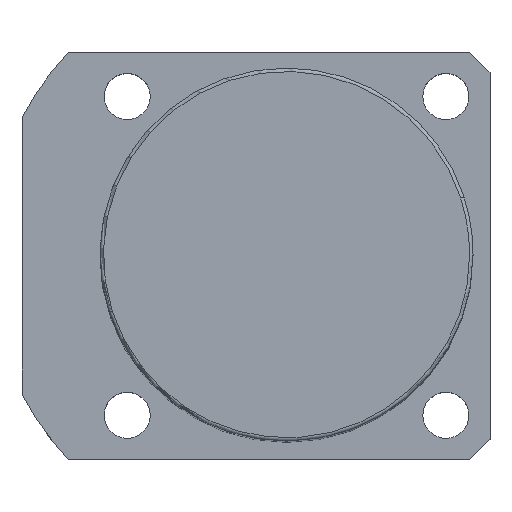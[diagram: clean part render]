
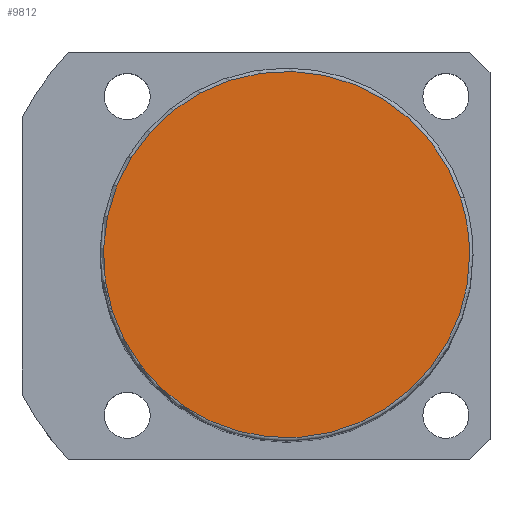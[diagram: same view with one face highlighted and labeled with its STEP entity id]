
A CAD part, top view. The second image highlights one B-rep face of the part: STEP entity #9812.
In plain terms, the highlighted planar face has unit normal (0, 0, 1).
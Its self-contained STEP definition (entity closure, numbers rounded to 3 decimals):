
#9745=CARTESIAN_POINT('',(25.679,8.343,121.0));
#9746=VERTEX_POINT('',#9745);
#9764=CARTESIAN_POINT('',(-25.679,-8.343,121.0));
#9765=VERTEX_POINT('',#9764);
#9773=CARTESIAN_POINT('',(0.0,0.0,121.0));
#9774=DIRECTION('',(0.0,0.0,1.0));
#9775=DIRECTION('',(1.0,0.0,0.0));
#9776=AXIS2_PLACEMENT_3D('',#9773,#9774,#9775);
#9777=CIRCLE('',#9776,27.0);
#9778=EDGE_CURVE('no 4567',#9746,#9765,#9777,.T.);
#9788=CARTESIAN_POINT('',(27.0,0.0,121.0));
#9789=VERTEX_POINT('',#9788);
#9790=CARTESIAN_POINT('',(0.0,0.0,121.0));
#9791=DIRECTION('',(0.0,0.0,1.0));
#9792=DIRECTION('',(1.0,0.0,0.0));
#9793=AXIS2_PLACEMENT_3D('',#9790,#9791,#9792);
#9794=CIRCLE('',#9793,27.0);
#9795=EDGE_CURVE('no 4576',#9789,#9746,#9794,.T.);
#9796=ORIENTED_EDGE('',*,*,#9795,.T.);
#9797=ORIENTED_EDGE('',*,*,#9778,.T.);
#9798=CARTESIAN_POINT('',(0.0,0.0,121.0));
#9799=DIRECTION('',(0.0,0.0,1.0));
#9800=DIRECTION('',(1.0,0.0,0.0));
#9801=AXIS2_PLACEMENT_3D('',#9798,#9799,#9800);
#9802=CIRCLE('',#9801,27.0);
#9803=EDGE_CURVE('no 4582',#9765,#9789,#9802,.T.);
#9804=ORIENTED_EDGE('',*,*,#9803,.T.);
#9805=EDGE_LOOP('',(#9796,#9797,#9804));
#9806=FACE_OUTER_BOUND('',#9805,.T.);
#9807=CARTESIAN_POINT('',(0.0,0.0,121.0));
#9808=DIRECTION('',(0.0,0.0,1.0));
#9809=DIRECTION('',(1.0,0.0,0.0));
#9810=AXIS2_PLACEMENT_3D('',#9807,#9808,#9809);
#9811=PLANE('',#9810);
#9812=ADVANCED_FACE('no 4569',(#9806),#9811,.T.);
